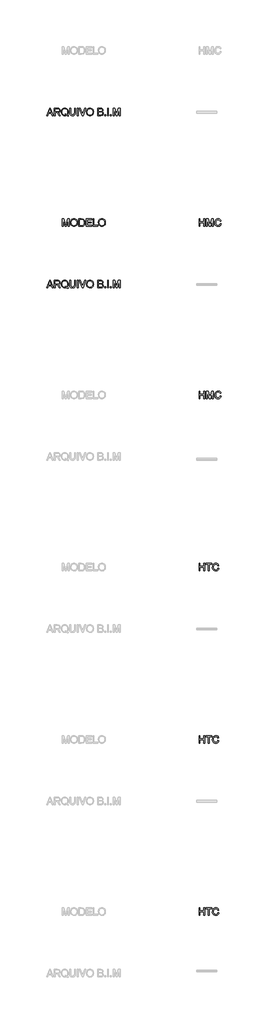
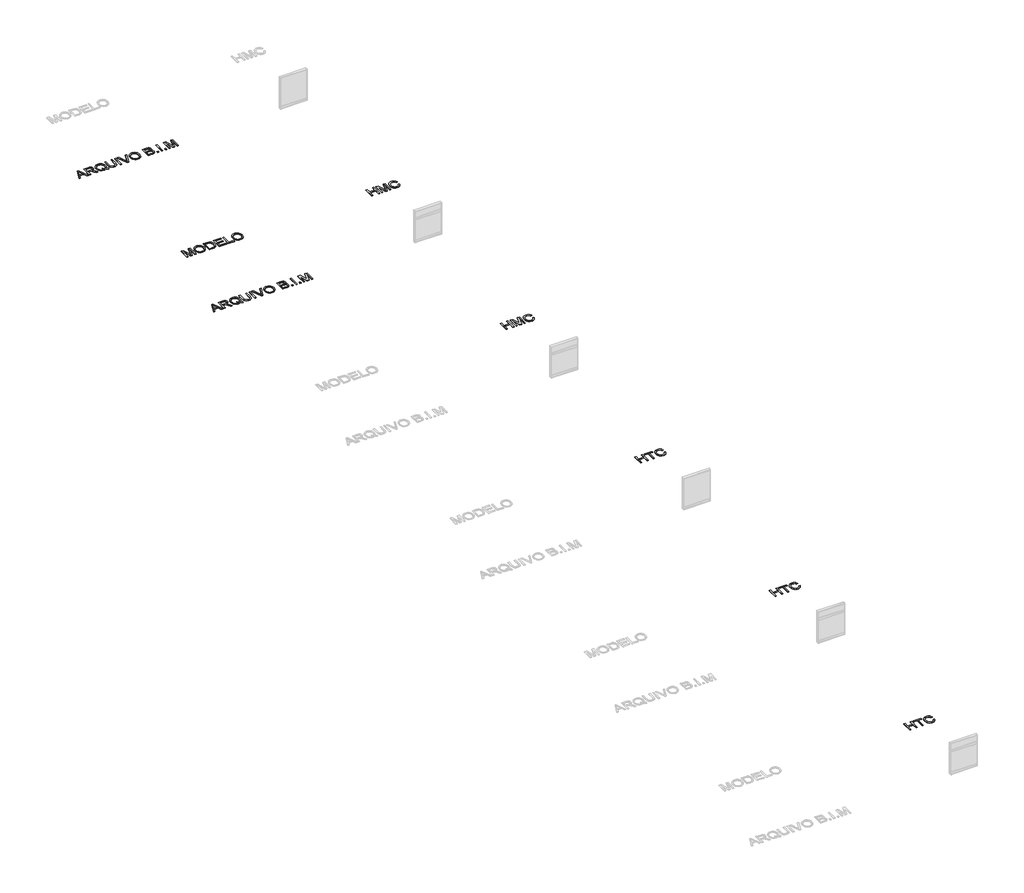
# One storey, part 7 of 8: 8 proxies.
"""IFC4 building model written with IfcOpenShell, lengths in millimetres."""

from ifc_helpers import new_model, si_unit, origin, origin_with_axes, place, context, project, spatial, polyline, outline, extrude, element, save

model = new_model("IFC4")

# Units and contexts
model_context = context("Model", 3, world=origin())
ifc_project = project(units=[si_unit("LENGTHUNIT", "METRE", prefix="MILLI")], contexts=[model_context])

# Site, building, storey
site = spatial("IfcSite", under=ifc_project)
building = spatial("IfcBuilding", under=site)
storey = spatial("IfcBuildingStorey", under=building, Name="Marelli - Linha HABITAT - Planta Baixa", Elevation=0.0)

# Proxies
placement = place(None, origin())
element("IfcBuildingElementProxy", 1, Name="300mm Arial", ObjectType="300mm Arial", at=placement, inside=storey, context=model_context, shape_type="SweptSolid", body=[
    extrude(outline(polyline([(35588.7720603, -14780.5663201), (35588.7720603, -14479.1973896), (35626.4431766, -14479.1973896), (35626.4431766, -14601.6285176), (35786.5454209, -14601.6285176), (35786.5454209, -14479.1973896), (35824.2165372, -14479.1973896), (35824.2165372, -14780.5663201), (35786.5454209, -14780.5663201), (35786.5454209, -14639.2996339), (35626.4431766, -14639.2996339), (35626.4431766, -14780.5663201), (35588.7720603, -14780.5663201)])), origin_with_axes(), (0.0, 0.0, 1.0), 10.0),
    extrude(outline(polyline([(35965.4832234, -14780.5663201), (35965.4832234, -14516.8685059), (35866.5965431, -14516.8685059), (35866.5965431, -14479.1973896), (36102.04102, -14479.1973896), (36102.04102, -14516.8685059), (36003.1543397, -14516.8685059), (36003.1543397, -14780.5663201), (35965.4832234, -14780.5663201)])), origin_with_axes(), (0.0, 0.0, 1.0), 10.0),
    extrude(outline(polyline([(36356.321055, -14673.4390831), (36393.9921713, -14683.1511677), (36386.5379624, -14706.5783531), (36376.6097471, -14727.0486868), (36364.2075253, -14744.5621691), (36349.3312971, -14759.1187997), (36332.3167549, -14770.5622291), (36313.4995908, -14778.7361071), (36292.879805, -14783.640434), (36270.4573974, -14785.2752096), (36226.7622134, -14780.3271968), (36192.0617442, -14765.4831583), (36165.4638759, -14741.2581289), (36146.0764948, -14708.1671434), (36134.2398916, -14669.2636224), (36130.2943572, -14627.6009865), (36134.7549264, -14583.6574821), (36148.136634, -14545.7104543), (36169.7405041, -14514.9647166), (36198.8675611, -14492.6250824), (36233.4116805, -14479.0226457), (36271.2667378, -14474.4885001), (36312.5706888, -14480.3562179), (36330.539425, -14487.6908652), (36346.719335, -14497.9593714), (36360.8437043, -14510.8904235), (36372.6458186, -14526.2127086), (36389.2832818, -14564.0309777), (36351.6121655, -14573.0072984), (36338.5523547, -14545.5357104), (36320.7100779, -14526.6909552), (36297.864606, -14515.7924511), (36269.7952098, -14512.1596164), (36237.4399883, -14516.1879242), (36210.8605141, -14528.2728478), (36190.6913838, -14547.1451941), (36177.5671936, -14571.5357704), (36170.3659035, -14599.1085259), (36167.9654735, -14627.5274101), (36170.8073619, -14662.3290468), (36179.3330272, -14692.421794), (36193.864366, -14716.6560205), (36214.7232751, -14733.8820949), (36239.7300537, -14744.1735937), (36266.705001, -14747.6040933), (36298.1497146, -14742.931992), (36324.3521097, -14728.9156879), (36344.134964, -14705.702334), (36356.321055, -14673.4390831)])), origin_with_axes(), (0.0, 0.0, 1.0), 10.0),
])
element("IfcBuildingElementProxy", 2, Name="300mm Arial", ObjectType="300mm Arial", at=placement, inside=storey, context=model_context, shape_type="SweptSolid", body=[
    extrude(outline(polyline([(35588.7720603, -7780.5663201), (35588.7720603, -7479.1973896), (35626.4431766, -7479.1973896), (35626.4431766, -7601.6285176), (35786.5454209, -7601.6285176), (35786.5454209, -7479.1973896), (35824.2165372, -7479.1973896), (35824.2165372, -7780.5663201), (35786.5454209, -7780.5663201), (35786.5454209, -7639.2996339), (35626.4431766, -7639.2996339), (35626.4431766, -7780.5663201), (35588.7720603, -7780.5663201)])), origin_with_axes(), (0.0, 0.0, 1.0), 10.0),
    extrude(outline(polyline([(35890.1409908, -7780.5663201), (35890.1409908, -7479.1973896), (35954.9617983, -7479.1973896), (36016.6188207, -7691.6124536), (36029.0532321, -7735.9790223), (36042.5177132, -7687.9336337), (36103.144666, -7479.1973896), (36167.9654735, -7479.1973896), (36167.9654735, -7780.5663201), (36130.2943572, -7780.5663201), (36130.2943572, -7516.8685059), (36054.5842426, -7780.5663201), (36003.5222217, -7780.5663201), (35927.8121071, -7516.8685059), (35927.8121071, -7780.5663201), (35890.1409908, -7780.5663201)])), origin_with_axes(), (0.0, 0.0, 1.0), 10.0),
    extrude(outline(polyline([(36445.7899563, -7673.4390831), (36483.4610726, -7683.1511677), (36476.0068636, -7706.5783531), (36466.0786483, -7727.0486868), (36453.6764265, -7744.5621691), (36438.8001984, -7759.1187997), (36421.7856561, -7770.5622291), (36402.968492, -7778.7361071), (36382.3487062, -7783.640434), (36359.9262986, -7785.2752096), (36316.2311146, -7780.3271968), (36281.5306454, -7765.4831583), (36254.9327772, -7741.2581289), (36235.545396, -7708.1671434), (36223.7087928, -7669.2636224), (36219.7632584, -7627.6009865), (36224.2238276, -7583.6574821), (36237.6055352, -7545.7104543), (36259.2094054, -7514.9647166), (36288.3364623, -7492.6250824), (36322.8805817, -7479.0226457), (36360.735639, -7474.4885001), (36402.03959, -7480.3562179), (36420.0083262, -7487.6908652), (36436.1882362, -7497.9593714), (36450.3126055, -7510.8904235), (36462.1147198, -7526.2127086), (36478.752183, -7564.0309777), (36441.0810667, -7573.0072984), (36428.0212559, -7545.5357104), (36410.1789791, -7526.6909552), (36387.3335072, -7515.7924511), (36359.264111, -7512.1596164), (36326.9088895, -7516.1879242), (36300.3294154, -7528.2728478), (36280.160285, -7547.1451941), (36267.0360948, -7571.5357704), (36259.8348048, -7599.1085259), (36257.4343747, -7627.5274101), (36260.2762631, -7662.3290468), (36268.8019284, -7692.421794), (36283.3332672, -7716.6560205), (36304.1921763, -7733.8820949), (36329.1989549, -7744.1735937), (36356.1739022, -7747.6040933), (36387.6186158, -7742.931992), (36413.8210109, -7728.9156879), (36433.6038652, -7705.702334), (36445.7899563, -7673.4390831)])), origin_with_axes(), (0.0, 0.0, 1.0), 10.0),
])
element("IfcBuildingElementProxy", 3, Name="300mm Arial", ObjectType="300mm Arial", at=placement, inside=storey, context=model_context, shape_type="SweptSolid", body=[
    extrude(outline(polyline([(29390.580402, -3280.5663201), (29510.8778144, -2979.1973896), (29542.9571244, -2979.1973896), (29663.2545368, -3280.5663201), (29623.449705, -3280.5663201), (29588.9423738, -3186.3885293), (29464.8189886, -3186.3885293), (29430.3852339, -3280.5663201), (29390.580402, -3280.5663201)]), holes=[polyline([(29478.6513517, -3148.717413), (29575.1835872, -3148.717413), (29548.0338959, -3074.6259792), (29526.9174694, -3016.8685059), (29508.1554877, -3068.1512561), (29478.6513517, -3148.717413)])]), origin_with_axes(), (0.0, 0.0, 1.0), 10.0),
    extrude(outline(polyline([(29703.5008271, -3280.5663201), (29703.5008271, -2979.1973896), (29833.3631714, -2979.1973896), (29868.2659757, -2981.2299376), (29893.6590304, -2987.3275817), (29912.2186771, -2998.5847708), (29926.6212572, -3016.0959537), (29935.8642923, -3037.8101885), (29938.945304, -3061.6765329), (29933.8409413, -3091.3646099), (29918.5278533, -3115.9759154), (29906.9280741, -3126.0052983), (29892.5461874, -3134.0205273), (29855.4360911, -3144.0085235), (29876.8468232, -3160.1217548), (29907.3810288, -3198.8965171), (29957.6337094, -3280.5663201), (29913.855752, -3280.5663201), (29874.6395313, -3218.0999573), (29846.3126176, -3176.750021), (29826.4102017, -3157.2154871), (29808.4943485, -3150.0417882), (29786.642158, -3148.717413), (29741.1719434, -3148.717413), (29741.1719434, -3280.5663201), (29703.5008271, -3280.5663201)]), holes=[polyline([(29741.1719434, -3111.0462967), (29825.4904967, -3111.0462967), (29849.706329, -3109.7127245), (29868.4959019, -3105.7120078), (29882.6409647, -3098.7774322), (29892.9232664, -3088.6422832), (29899.1864574, -3076.3826157), (29901.2741877, -3063.0744845), (29897.2918651, -3044.6987789), (29885.3448973, -3029.8915286), (29864.7894908, -3020.1242616), (29834.9818522, -3016.8685059), (29741.1719434, -3016.8685059), (29741.1719434, -3111.0462967)])]), origin_with_axes(), (0.0, 0.0, 1.0), 10.0),
    extrude(outline(polyline([(30231.2643374, -3244.4403081), (30255.5997314, -3263.036743), (30277.9853508, -3275.8574305), (30267.8318077, -3303.4485802), (30236.7641732, -3289.0460001), (30205.8069033, -3268.205485), (30170.9500843, -3281.0077785), (30132.5983863, -3285.2752096), (30094.0627473, -3280.3547879), (30059.2427164, -3265.5935229), (30030.0788713, -3241.9203165), (30008.5117893, -3210.2640708), (29995.185264, -3172.3630282), (29990.7430889, -3129.9554312), (29995.176067, -3087.511046), (30008.4750011, -3049.0581805), (30029.9593096, -3016.9512794), (30058.9484108, -2993.5447874), (30093.639683, -2979.2525719), (30132.2305043, -2974.4885001), (30171.1248282, -2979.3629365), (30205.9908443, -2993.9862458), (30234.9339603, -3017.3835407), (30256.0595839, -3048.5799339), (30268.9722419, -3085.9199564), (30273.2764612, -3127.7481393), (30270.6644991, -3162.5313819), (30262.8286126, -3193.5990164), (30249.7136194, -3220.9142546), (30231.2643374, -3244.4403081)]), holes=[polyline([(30142.9726585, -3194.3347804), (30174.6472983, -3206.3093393), (30200.215097, -3222.9559996), (30215.6983305, -3205.4816049), (30226.7577829, -3184.1076609), (30233.3934544, -3158.8341679), (30235.6053449, -3129.6611256), (30232.478348, -3096.5057608), (30223.0973571, -3067.8201623), (30207.6922985, -3044.3308969), (30186.4930986, -3026.7645316), (30160.934497, -3015.8108452), (30132.4512335, -3012.1596164), (30110.966925, -3014.0059242), (30091.3956028, -3019.5448474), (30073.7372671, -3028.7763863), (30057.9919177, -3041.7005406), (30045.0516685, -3058.2897193), (30035.8086334, -3078.5163313), (30030.2628123, -3102.3803764), (30028.4142053, -3129.8818548), (30030.2421189, -3156.6659634), (30035.7258599, -3180.1437324), (30044.8654282, -3200.3151621), (30057.6608239, -3217.1802523), (30073.2981079, -3230.4906827), (30090.9633415, -3239.9981331), (30110.6565245, -3245.7026032), (30132.3776571, -3247.6040933), (30153.2917485, -3245.6727128), (30172.918253, -3239.8785714), (30153.6228423, -3229.853787), (30133.2605739, -3223.1767288), (30142.9726585, -3194.3347804)])]), origin_with_axes(), (0.0, 0.0, 1.0), 10.0),
    extrude(outline(polyline([(30527.5564963, -2979.1973896), (30565.2276126, -2979.1973896), (30565.2276126, -3153.0584205), (30562.6708327, -3193.7737604), (30555.0004931, -3225.1265034), (30540.6714894, -3249.3147446), (30518.1387172, -3268.5365788), (30487.3469942, -3281.0905519), (30448.2411381, -3285.2752096), (30409.9906077, -3281.6331779), (30379.4104168, -3270.7070826), (30356.4913685, -3252.8740029), (30341.2242657, -3228.5110178), (30332.6434182, -3195.8338995), (30329.7831357, -3153.0584205), (30329.7831357, -2979.1973896), (30367.454252, -2979.1973896), (30367.454252, -3151.7340454), (30369.3120561, -3185.588386), (30374.8854683, -3209.1604248), (30384.9838291, -3225.4851883), (30400.4164788, -3237.597703), (30420.5396239, -3245.1024957), (30444.709471, -3247.6040933), (30483.0243808, -3242.6560805), (30497.3671801, -3236.4710644), (30508.500209, -3227.812042), (30516.8373347, -3215.6351479), (30522.7924245, -3198.8965171), (30527.5564963, -3151.7340454), (30527.5564963, -2979.1973896)])), origin_with_axes(), (0.0, 0.0, 1.0), 10.0),
    extrude(outline(polyline([(30635.8609557, -3280.5663201), (30635.8609557, -2979.1973896), (30673.532072, -2979.1973896), (30673.532072, -3280.5663201), (30635.8609557, -3280.5663201)])), origin_with_axes(), (0.0, 0.0, 1.0), 10.0),
    extrude(outline(polyline([(30837.9017474, -3280.5663201), (30717.972217, -2979.1973896), (30758.2920837, -2979.1973896), (30838.563935, -3196.3213432), (30854.8243192, -3245.2496485), (30870.8639742, -3196.3213432), (30951.3565547, -2979.1973896), (30991.6764214, -2979.1973896), (30876.8236625, -3280.5663201), (30837.9017474, -3280.5663201)])), origin_with_axes(), (0.0, 0.0, 1.0), 10.0),
    extrude(outline(polyline([(31012.5721187, -3133.8549804), (31015.0829134, -3098.5061192), (31022.6152972, -3067.213157), (31035.1692703, -3039.9760937), (31052.7448326, -3016.7949295), (31074.288922, -2998.2858666), (31098.7484761, -2985.0651074), (31126.1234951, -2977.1326519), (31156.4139789, -2974.4885001), (31195.9428992, -2979.454907), (31231.3883295, -2994.3541278), (31260.8188891, -3018.1376988), (31282.3031976, -3049.7571563), (31295.4365848, -3087.68579), (31299.8143806, -3130.3968896), (31295.2066586, -3173.6782064), (31281.3834926, -3212.140269), (31259.1082378, -3243.8149088), (31229.1442493, -3266.733957), (31194.0023217, -3280.6398965), (31156.1932497, -3285.2752096), (31116.057324, -3280.1524528), (31080.4095587, -3264.7841825), (31051.0525754, -3240.5591531), (31029.7889961, -3208.8661192), (31016.8763381, -3172.3998164), (31012.5721187, -3133.8549804)]), holes=[polyline([(31050.2432351, -3134.2228624), (31052.126331, -3159.1974513), (31057.7756189, -3181.3669401), (31067.1910987, -3200.7313286), (31080.3727705, -3217.2906169), (31096.3963306, -3230.5527628), (31114.3374757, -3240.0257242), (31134.1962056, -3245.709501), (31155.9725205, -3247.6040933), (31178.1213158, -3245.6911069), (31198.2145706, -3239.9521478), (31216.2522846, -3230.3872159), (31232.2344581, -3216.9963113), (31245.3195608, -3200.0875351), (31254.6660627, -3179.9689885), (31260.2739639, -3156.6406715), (31262.1432643, -3130.102584), (31258.9426909, -3096.7540812), (31249.3409708, -3067.9305269), (31233.5864244, -3044.358488), (31211.9273719, -3026.7645316), (31185.7985532, -3015.8108452), (31156.6347081, -3012.1596164), (31135.6148506, -3013.9185522), (31116.1125063, -3019.1953595), (31098.1276753, -3027.9900385), (31081.6603574, -3040.302589), (31067.9153664, -3056.7262208), (31058.0975157, -3077.8541437), (31052.2068052, -3103.6863575), (31050.2432351, -3134.2228624)])]), origin_with_axes(), (0.0, 0.0, 1.0), 10.0),
    extrude(outline(polyline([(31469.334404, -3280.5663201), (31469.334404, -2979.1973896), (31584.3343157, -2979.1973896), (31615.9629702, -2981.4138786), (31640.6570491, -2988.0633457), (31659.5845778, -2999.3113377), (31673.9135815, -3015.3234015), (31682.9358874, -3034.1589597), (31685.9433227, -3053.8774346), (31683.414134, -3072.0232141), (31675.8265679, -3089.0837416), (31663.125442, -3104.0105535), (31645.2555741, -3115.7551862), (31666.6019268, -3126.9020107), (31682.3748674, -3143.8613707), (31692.1145432, -3165.5112261), (31695.3611018, -3190.7295368), (31693.1446128, -3211.7447958), (31686.4951457, -3231.2333445), (31676.5715289, -3247.8064284), (31664.5325906, -3260.0752929), (31649.7897196, -3268.9596431), (31631.7543048, -3275.3791839), (31583.4513989, -3280.5663201), (31469.334404, -3280.5663201)]), holes=[polyline([(31507.0055203, -3101.6285176), (31575.7994534, -3101.6285176), (31615.9721672, -3098.3911561), (31630.0344565, -3092.8085468), (31640.1420143, -3084.4484284), (31646.2396584, -3073.4395597), (31648.2722064, -3059.9106994), (31646.3776141, -3046.7773121), (31640.6938373, -3035.3361821), (31631.4783933, -3026.4058467), (31618.9887996, -3020.8048433), (31570.575529, -3016.8685059), (31507.0055203, -3016.8685059), (31507.0055203, -3101.6285176)]), polyline([(31507.0055203, -3242.8952038), (31584.2607393, -3242.8952038), (31612.2197709, -3241.4236758), (31635.8745832, -3233.2199073), (31651.5463562, -3216.4812765), (31656.1540782, -3204.6538704), (31657.6899855, -3191.0974188), (31655.8873637, -3175.3520694), (31650.4794984, -3161.814012), (31641.0341282, -3151.2282076), (31627.1189917, -3144.3396173), (31607.4097138, -3140.5596298), (31580.5819193, -3139.2996339), (31507.0055203, -3139.2996339), (31507.0055203, -3242.8952038)])]), origin_with_axes(), (0.0, 0.0, 1.0), 10.0),
    extrude(outline(polyline([(31751.8677763, -3280.5663201), (31751.8677763, -3242.8952038), (31789.5388926, -3242.8952038), (31789.5388926, -3280.5663201), (31751.8677763, -3280.5663201)])), origin_with_axes(), (0.0, 0.0, 1.0), 10.0),
    extrude(outline(polyline([(31869.5900147, -3280.5663201), (31869.5900147, -2979.1973896), (31907.261131, -2979.1973896), (31907.261131, -3280.5663201), (31869.5900147, -3280.5663201)])), origin_with_axes(), (0.0, 0.0, 1.0), 10.0),
    extrude(outline(polyline([(31987.3122532, -3280.5663201), (31987.3122532, -3242.8952038), (32024.9833695, -3242.8952038), (32024.9833695, -3280.5663201), (31987.3122532, -3280.5663201)])), origin_with_axes(), (0.0, 0.0, 1.0), 10.0),
    extrude(outline(polyline([(32100.3256021, -3280.5663201), (32100.3256021, -2979.1973896), (32165.1464096, -2979.1973896), (32226.803432, -3191.6124536), (32239.2378435, -3235.9790223), (32252.7023245, -3187.9336337), (32313.3292773, -2979.1973896), (32378.1500848, -2979.1973896), (32378.1500848, -3280.5663201), (32340.4789685, -3280.5663201), (32340.4789685, -3016.8685059), (32264.7688539, -3280.5663201), (32213.706833, -3280.5663201), (32137.9967184, -3016.8685059), (32137.9967184, -3280.5663201), (32100.3256021, -3280.5663201)])), origin_with_axes(), (0.0, 0.0, 1.0), 10.0),
])
element("IfcBuildingElementProxy", 4, Name="300mm Arial", ObjectType="300mm Arial", at=placement, inside=storey, context=model_context, shape_type="SweptSolid", body=[
    extrude(outline(polyline([(35588.7720603, -780.5663201), (35588.7720603, -479.1973896), (35626.4431766, -479.1973896), (35626.4431766, -601.6285176), (35786.5454209, -601.6285176), (35786.5454209, -479.1973896), (35824.2165372, -479.1973896), (35824.2165372, -780.5663201), (35786.5454209, -780.5663201), (35786.5454209, -639.2996339), (35626.4431766, -639.2996339), (35626.4431766, -780.5663201), (35588.7720603, -780.5663201)])), origin_with_axes(), (0.0, 0.0, 1.0), 10.0),
    extrude(outline(polyline([(35890.1409908, -780.5663201), (35890.1409908, -479.1973896), (35954.9617983, -479.1973896), (36016.6188207, -691.6124536), (36029.0532321, -735.9790223), (36042.5177132, -687.9336337), (36103.144666, -479.1973896), (36167.9654735, -479.1973896), (36167.9654735, -780.5663201), (36130.2943572, -780.5663201), (36130.2943572, -516.8685059), (36054.5842426, -780.5663201), (36003.5222217, -780.5663201), (35927.8121071, -516.8685059), (35927.8121071, -780.5663201), (35890.1409908, -780.5663201)])), origin_with_axes(), (0.0, 0.0, 1.0), 10.0),
    extrude(outline(polyline([(36445.7899563, -673.4390831), (36483.4610726, -683.1511677), (36476.0068636, -706.5783531), (36466.0786483, -727.0486868), (36453.6764265, -744.5621691), (36438.8001984, -759.1187997), (36421.7856561, -770.5622291), (36402.968492, -778.7361071), (36382.3487062, -783.640434), (36359.9262986, -785.2752096), (36316.2311146, -780.3271968), (36281.5306454, -765.4831583), (36254.9327772, -741.2581289), (36235.545396, -708.1671434), (36223.7087928, -669.2636224), (36219.7632584, -627.6009865), (36224.2238276, -583.6574821), (36237.6055352, -545.7104543), (36259.2094054, -514.9647166), (36288.3364623, -492.6250824), (36322.8805817, -479.0226457), (36360.735639, -474.4885001), (36402.03959, -480.3562179), (36420.0083262, -487.6908652), (36436.1882362, -497.9593714), (36450.3126055, -510.8904235), (36462.1147198, -526.2127086), (36478.752183, -564.0309777), (36441.0810667, -573.0072984), (36428.0212559, -545.5357104), (36410.1789791, -526.6909552), (36387.3335072, -515.7924511), (36359.264111, -512.1596164), (36326.9088895, -516.1879242), (36300.3294154, -528.2728478), (36280.160285, -547.1451941), (36267.0360948, -571.5357704), (36259.8348048, -599.1085259), (36257.4343747, -627.5274101), (36260.2762631, -662.3290468), (36268.8019284, -692.421794), (36283.3332672, -716.6560205), (36304.1921763, -733.8820949), (36329.1989549, -744.1735937), (36356.1739022, -747.6040933), (36387.6186158, -742.931992), (36413.8210109, -728.9156879), (36433.6038652, -705.702334), (36445.7899563, -673.4390831)])), origin_with_axes(), (0.0, 0.0, 1.0), 10.0),
])
element("IfcBuildingElementProxy", 5, Name="300mm Arial", ObjectType="300mm Arial", at=placement, inside=storey, context=model_context, shape_type="SweptSolid", body=[
    extrude(outline(polyline([(30033.1230948, -780.5663201), (30033.1230948, -479.1973896), (30097.9439023, -479.1973896), (30159.6009247, -691.6124536), (30172.0353362, -735.9790223), (30185.4998172, -687.9336337), (30246.12677, -479.1973896), (30310.9475775, -479.1973896), (30310.9475775, -780.5663201), (30273.2764612, -780.5663201), (30273.2764612, -516.8685059), (30197.5663466, -780.5663201), (30146.5043257, -780.5663201), (30070.7942111, -516.8685059), (30070.7942111, -780.5663201), (30033.1230948, -780.5663201)])), origin_with_axes(), (0.0, 0.0, 1.0), 10.0),
    extrude(outline(polyline([(30362.7453625, -633.8549804), (30365.2561571, -598.5061192), (30372.7885409, -567.213157), (30385.342514, -539.9760937), (30402.9180763, -516.7949295), (30424.4621657, -498.2858666), (30448.9217198, -485.0651074), (30476.2967388, -477.1326519), (30506.5872226, -474.4885001), (30546.116143, -479.454907), (30581.5615732, -494.3541278), (30610.9921328, -518.1376988), (30632.4764413, -549.7571563), (30645.6098286, -587.68579), (30649.9876243, -630.3968896), (30645.3799023, -673.6782064), (30631.5567363, -712.140269), (30609.2814815, -743.8149088), (30579.317493, -766.733957), (30544.1755654, -780.6398965), (30506.3664934, -785.2752096), (30466.2305677, -780.1524528), (30430.5828024, -764.7841825), (30401.2258192, -740.5591531), (30379.9622398, -708.8661192), (30367.0495818, -672.3998164), (30362.7453625, -633.8549804)]), holes=[polyline([(30400.4164788, -634.2228624), (30402.2995747, -659.1974513), (30407.9488626, -681.3669401), (30417.3643424, -700.7313286), (30430.5460142, -717.2906169), (30446.5695743, -730.5527628), (30464.5107194, -740.0257242), (30484.3694493, -745.709501), (30506.1457642, -747.6040933), (30528.2945596, -745.6911069), (30548.3878143, -739.9521478), (30566.4255284, -730.3872159), (30582.4077018, -716.9963113), (30595.4928045, -700.0875351), (30604.8393064, -679.9689885), (30610.4472076, -656.6406715), (30612.316508, -630.102584), (30609.1159346, -596.7540812), (30599.5142146, -567.9305269), (30583.7596681, -544.358488), (30562.1006157, -526.7645316), (30535.9717969, -515.8108452), (30506.8079518, -512.1596164), (30485.7880943, -513.9185522), (30466.28575, -519.1953595), (30448.300919, -527.9900385), (30431.8336012, -540.302589), (30418.0886101, -556.7262208), (30408.2707594, -577.8541437), (30402.3800489, -603.6863575), (30400.4164788, -634.2228624)])]), origin_with_axes(), (0.0, 0.0, 1.0), 10.0),
    extrude(outline(polyline([(30701.7854092, -780.5663201), (30701.7854092, -479.1973896), (30805.7488611, -479.1973896), (30859.5332088, -483.5383972), (30883.555903, -491.9077126), (30903.826201, -505.0962821), (30924.666716, -528.0521186), (30939.5107545, -556.5997614), (30948.3951047, -590.1873876), (30951.3565547, -628.2631741), (30949.3515979, -660.6091985), (30943.3367273, -689.0740679), (30934.1764656, -713.3082943), (30922.7353355, -732.9623899), (30909.5651601, -748.477813), (30895.2177623, -760.2960221), (30878.745846, -769.0608107), (30859.202115, -775.4159721), (30810.7520562, -780.5663201), (30701.7854092, -780.5663201)]), holes=[polyline([(30739.4565255, -742.8952038), (30806.1167431, -742.8952038), (30833.6894986, -741.5340404), (30854.60359, -737.4505502), (30870.3857276, -730.8838566), (30882.5626217, -722.0730828), (30895.6500236, -705.7667134), (30905.48167, -684.6594839), (30911.6344963, -658.6594239), (30913.6854384, -627.6745629), (30909.6663276, -586.6189322), (30897.6089953, -556.3054558), (30879.7943096, -535.4833349), (30858.5031392, -522.9017706), (30836.8348897, -518.3768221), (30805.0866735, -516.8685059), (30739.4565255, -516.8685059), (30739.4565255, -742.8952038)])]), origin_with_axes(), (0.0, 0.0, 1.0), 10.0),
    extrude(outline(polyline([(31003.1543397, -780.5663201), (31003.1543397, -479.1973896), (31219.7632584, -479.1973896), (31219.7632584, -516.8685059), (31040.825456, -516.8685059), (31040.825456, -606.3374072), (31210.3454794, -606.3374072), (31210.3454794, -644.0085235), (31040.825456, -644.0085235), (31040.825456, -742.8952038), (31224.472148, -742.8952038), (31224.472148, -780.5663201), (31003.1543397, -780.5663201)])), origin_with_axes(), (0.0, 0.0, 1.0), 10.0),
    extrude(outline(polyline([(31280.9788224, -780.5663201), (31280.9788224, -479.1973896), (31318.6499387, -479.1973896), (31318.6499387, -742.8952038), (31469.334404, -742.8952038), (31469.334404, -780.5663201), (31280.9788224, -780.5663201)])), origin_with_axes(), (0.0, 0.0, 1.0), 10.0),
    extrude(outline(polyline([(31497.5877412, -633.8549804), (31500.0985358, -598.5061192), (31507.6309197, -567.213157), (31520.1848927, -539.9760937), (31537.7604551, -516.7949295), (31559.3045444, -498.2858666), (31583.7640986, -485.0651074), (31611.1391175, -477.1326519), (31641.4296013, -474.4885001), (31680.9585217, -479.454907), (31716.4039519, -494.3541278), (31745.8345115, -518.1376988), (31767.3188201, -549.7571563), (31780.4522073, -587.68579), (31784.830003, -630.3968896), (31780.222281, -673.6782064), (31766.3991151, -712.140269), (31744.1238603, -743.8149088), (31714.1598717, -766.733957), (31679.0179442, -780.6398965), (31641.2088721, -785.2752096), (31601.0729464, -780.1524528), (31565.4251811, -764.7841825), (31536.0681979, -740.5591531), (31514.8046186, -708.8661192), (31501.8919605, -672.3998164), (31497.5877412, -633.8549804)]), holes=[polyline([(31535.2588575, -634.2228624), (31537.1419535, -659.1974513), (31542.7912413, -681.3669401), (31552.2067212, -700.7313286), (31565.3883929, -717.2906169), (31581.4119531, -730.5527628), (31599.3530981, -740.0257242), (31619.2118281, -745.709501), (31640.9881429, -747.6040933), (31663.1369383, -745.6911069), (31683.230193, -739.9521478), (31701.2679071, -730.3872159), (31717.2500805, -716.9963113), (31730.3351832, -700.0875351), (31739.6816852, -679.9689885), (31745.2895863, -656.6406715), (31747.1588867, -630.102584), (31743.9583134, -596.7540812), (31734.3565933, -567.9305269), (31718.6020468, -544.358488), (31696.9429944, -526.7645316), (31670.8141757, -515.8108452), (31641.6503305, -512.1596164), (31620.630473, -513.9185522), (31601.1281287, -519.1953595), (31583.1432977, -527.9900385), (31566.6759799, -540.302589), (31552.9309888, -556.7262208), (31543.1131381, -577.8541437), (31537.2224276, -603.6863575), (31535.2588575, -634.2228624)])]), origin_with_axes(), (0.0, 0.0, 1.0), 10.0),
])
element("IfcBuildingElementProxy", 6, Name="300mm Arial", ObjectType="300mm Arial", at=placement, inside=storey, context=model_context, shape_type="SweptSolid", body=[
    extrude(outline(polyline([(29390.580402, 3719.4336799), (29510.8778144, 4020.8026104), (29542.9571244, 4020.8026104), (29663.2545368, 3719.4336799), (29623.449705, 3719.4336799), (29588.9423738, 3813.6114707), (29464.8189886, 3813.6114707), (29430.3852339, 3719.4336799), (29390.580402, 3719.4336799)]), holes=[polyline([(29478.6513517, 3851.282587), (29575.1835872, 3851.282587), (29548.0338959, 3925.3740208), (29526.9174694, 3983.1314941), (29508.1554877, 3931.8487439), (29478.6513517, 3851.282587)])]), origin_with_axes(), (0.0, 0.0, 1.0), 10.0),
    extrude(outline(polyline([(29703.5008271, 3719.4336799), (29703.5008271, 4020.8026104), (29833.3631714, 4020.8026104), (29868.2659757, 4018.7700624), (29893.6590304, 4012.6724183), (29912.2186771, 4001.4152292), (29926.6212572, 3983.9040463), (29935.8642923, 3962.1898115), (29938.945304, 3938.3234671), (29933.8409413, 3908.6353901), (29918.5278533, 3884.0240846), (29906.9280741, 3873.9947017), (29892.5461874, 3865.9794727), (29855.4360911, 3855.9914765), (29876.8468232, 3839.8782452), (29907.3810288, 3801.1034829), (29957.6337094, 3719.4336799), (29913.855752, 3719.4336799), (29874.6395313, 3781.9000427), (29846.3126176, 3823.249979), (29826.4102017, 3842.7845129), (29808.4943485, 3849.9582118), (29786.642158, 3851.282587), (29741.1719434, 3851.282587), (29741.1719434, 3719.4336799), (29703.5008271, 3719.4336799)]), holes=[polyline([(29741.1719434, 3888.9537033), (29825.4904967, 3888.9537033), (29849.706329, 3890.2872755), (29868.4959019, 3894.2879922), (29882.6409647, 3901.2225678), (29892.9232664, 3911.3577168), (29899.1864574, 3923.6173843), (29901.2741877, 3936.9255155), (29897.2918651, 3955.3012211), (29885.3448973, 3970.1084714), (29864.7894908, 3979.8757384), (29834.9818522, 3983.1314941), (29741.1719434, 3983.1314941), (29741.1719434, 3888.9537033)])]), origin_with_axes(), (0.0, 0.0, 1.0), 10.0),
    extrude(outline(polyline([(30231.2643374, 3755.5596919), (30255.5997314, 3736.963257), (30277.9853508, 3724.1425695), (30267.8318077, 3696.5514198), (30236.7641732, 3710.9539999), (30205.8069033, 3731.794515), (30170.9500843, 3718.9922215), (30132.5983863, 3714.7247904), (30094.0627473, 3719.6452121), (30059.2427164, 3734.4064771), (30030.0788713, 3758.0796835), (30008.5117893, 3789.7359292), (29995.185264, 3827.6369718), (29990.7430889, 3870.0445688), (29995.176067, 3912.488954), (30008.4750011, 3950.9418195), (30029.9593096, 3983.0487206), (30058.9484108, 4006.4552126), (30093.639683, 4020.7474281), (30132.2305043, 4025.5114999), (30171.1248282, 4020.6370635), (30205.9908443, 4006.0137542), (30234.9339603, 3982.6164593), (30256.0595839, 3951.4200661), (30268.9722419, 3914.0800436), (30273.2764612, 3872.2518607), (30270.6644991, 3837.4686181), (30262.8286126, 3806.4009836), (30249.7136194, 3779.0857454), (30231.2643374, 3755.5596919)]), holes=[polyline([(30142.9726585, 3805.6652196), (30174.6472983, 3793.6906607), (30200.215097, 3777.0440004), (30215.6983305, 3794.5183951), (30226.7577829, 3815.8923391), (30233.3934544, 3841.1658321), (30235.6053449, 3870.3388744), (30232.478348, 3903.4942392), (30223.0973571, 3932.1798377), (30207.6922985, 3955.6691031), (30186.4930986, 3973.2354684), (30160.934497, 3984.1891548), (30132.4512335, 3987.8403836), (30110.966925, 3985.9940758), (30091.3956028, 3980.4551526), (30073.7372671, 3971.2236137), (30057.9919177, 3958.2994594), (30045.0516685, 3941.7102807), (30035.8086334, 3921.4836687), (30030.2628123, 3897.6196236), (30028.4142053, 3870.1181452), (30030.2421189, 3843.3340366), (30035.7258599, 3819.8562676), (30044.8654282, 3799.6848379), (30057.6608239, 3782.8197477), (30073.2981079, 3769.5093173), (30090.9633415, 3760.0018669), (30110.6565245, 3754.2973968), (30132.3776571, 3752.3959067), (30153.2917485, 3754.3272872), (30172.918253, 3760.1214286), (30153.6228423, 3770.146213), (30133.2605739, 3776.8232712), (30142.9726585, 3805.6652196)])]), origin_with_axes(), (0.0, 0.0, 1.0), 10.0),
    extrude(outline(polyline([(30527.5564963, 4020.8026104), (30565.2276126, 4020.8026104), (30565.2276126, 3846.9415795), (30562.6708327, 3806.2262396), (30555.0004931, 3774.8734966), (30540.6714894, 3750.6852554), (30518.1387172, 3731.4634212), (30487.3469942, 3718.9094481), (30448.2411381, 3714.7247904), (30409.9906077, 3718.3668221), (30379.4104168, 3729.2929174), (30356.4913685, 3747.1259971), (30341.2242657, 3771.4889822), (30332.6434182, 3804.1661005), (30329.7831357, 3846.9415795), (30329.7831357, 4020.8026104), (30367.454252, 4020.8026104), (30367.454252, 3848.2659546), (30369.3120561, 3814.411614), (30374.8854683, 3790.8395752), (30384.9838291, 3774.5148117), (30400.4164788, 3762.402297), (30420.5396239, 3754.8975043), (30444.709471, 3752.3959067), (30483.0243808, 3757.3439195), (30497.3671801, 3763.5289356), (30508.500209, 3772.187958), (30516.8373347, 3784.3648521), (30522.7924245, 3801.1034829), (30527.5564963, 3848.2659546), (30527.5564963, 4020.8026104)])), origin_with_axes(), (0.0, 0.0, 1.0), 10.0),
    extrude(outline(polyline([(30635.8609557, 3719.4336799), (30635.8609557, 4020.8026104), (30673.532072, 4020.8026104), (30673.532072, 3719.4336799), (30635.8609557, 3719.4336799)])), origin_with_axes(), (0.0, 0.0, 1.0), 10.0),
    extrude(outline(polyline([(30837.9017474, 3719.4336799), (30717.972217, 4020.8026104), (30758.2920837, 4020.8026104), (30838.563935, 3803.6786568), (30854.8243192, 3754.7503515), (30870.8639742, 3803.6786568), (30951.3565547, 4020.8026104), (30991.6764214, 4020.8026104), (30876.8236625, 3719.4336799), (30837.9017474, 3719.4336799)])), origin_with_axes(), (0.0, 0.0, 1.0), 10.0),
    extrude(outline(polyline([(31012.5721187, 3866.1450196), (31015.0829134, 3901.4938808), (31022.6152972, 3932.786843), (31035.1692703, 3960.0239063), (31052.7448326, 3983.2050705), (31074.288922, 4001.7141334), (31098.7484761, 4014.9348926), (31126.1234951, 4022.8673481), (31156.4139789, 4025.5114999), (31195.9428992, 4020.545093), (31231.3883295, 4005.6458722), (31260.8188891, 3981.8623012), (31282.3031976, 3950.2428437), (31295.4365848, 3912.31421), (31299.8143806, 3869.6031104), (31295.2066586, 3826.3217936), (31281.3834926, 3787.859731), (31259.1082378, 3756.1850912), (31229.1442493, 3733.266043), (31194.0023217, 3719.3601035), (31156.1932497, 3714.7247904), (31116.057324, 3719.8475472), (31080.4095587, 3735.2158175), (31051.0525754, 3759.4408469), (31029.7889961, 3791.1338808), (31016.8763381, 3827.6001836), (31012.5721187, 3866.1450196)]), holes=[polyline([(31050.2432351, 3865.7771376), (31052.126331, 3840.8025487), (31057.7756189, 3818.6330599), (31067.1910987, 3799.2686714), (31080.3727705, 3782.7093831), (31096.3963306, 3769.4472372), (31114.3374757, 3759.9742758), (31134.1962056, 3754.290499), (31155.9725205, 3752.3959067), (31178.1213158, 3754.3088931), (31198.2145706, 3760.0478522), (31216.2522846, 3769.6127841), (31232.2344581, 3783.0036887), (31245.3195608, 3799.9124649), (31254.6660627, 3820.0310115), (31260.2739639, 3843.3593285), (31262.1432643, 3869.897416), (31258.9426909, 3903.2459188), (31249.3409708, 3932.0694731), (31233.5864244, 3955.641512), (31211.9273719, 3973.2354684), (31185.7985532, 3984.1891548), (31156.6347081, 3987.8403836), (31135.6148506, 3986.0814478), (31116.1125063, 3980.8046405), (31098.1276753, 3972.0099615), (31081.6603574, 3959.697411), (31067.9153664, 3943.2737792), (31058.0975157, 3922.1458563), (31052.2068052, 3896.3136425), (31050.2432351, 3865.7771376)])]), origin_with_axes(), (0.0, 0.0, 1.0), 10.0),
    extrude(outline(polyline([(31469.334404, 3719.4336799), (31469.334404, 4020.8026104), (31584.3343157, 4020.8026104), (31615.9629702, 4018.5861214), (31640.6570491, 4011.9366543), (31659.5845778, 4000.6886623), (31673.9135815, 3984.6765985), (31682.9358874, 3965.8410403), (31685.9433227, 3946.1225654), (31683.414134, 3927.9767859), (31675.8265679, 3910.9162584), (31663.125442, 3895.9894465), (31645.2555741, 3884.2448138), (31666.6019268, 3873.0979893), (31682.3748674, 3856.1386293), (31692.1145432, 3834.4887739), (31695.3611018, 3809.2704632), (31693.1446128, 3788.2552042), (31686.4951457, 3768.7666555), (31676.5715289, 3752.1935716), (31664.5325906, 3739.9247071), (31649.7897196, 3731.0403569), (31631.7543048, 3724.6208161), (31583.4513989, 3719.4336799), (31469.334404, 3719.4336799)]), holes=[polyline([(31507.0055203, 3898.3714824), (31575.7994534, 3898.3714824), (31615.9721672, 3901.6088439), (31630.0344565, 3907.1914532), (31640.1420143, 3915.5515716), (31646.2396584, 3926.5604403), (31648.2722064, 3940.0893006), (31646.3776141, 3953.2226879), (31640.6938373, 3964.6638179), (31631.4783933, 3973.5941533), (31618.9887996, 3979.1951567), (31570.575529, 3983.1314941), (31507.0055203, 3983.1314941), (31507.0055203, 3898.3714824)]), polyline([(31507.0055203, 3757.1047962), (31584.2607393, 3757.1047962), (31612.2197709, 3758.5763242), (31635.8745832, 3766.7800927), (31651.5463562, 3783.5187235), (31656.1540782, 3795.3461296), (31657.6899855, 3808.9025812), (31655.8873637, 3824.6479306), (31650.4794984, 3838.185988), (31641.0341282, 3848.7717924), (31627.1189917, 3855.6603827), (31607.4097138, 3859.4403702), (31580.5819193, 3860.7003661), (31507.0055203, 3860.7003661), (31507.0055203, 3757.1047962)])]), origin_with_axes(), (0.0, 0.0, 1.0), 10.0),
    extrude(outline(polyline([(31751.8677763, 3719.4336799), (31751.8677763, 3757.1047962), (31789.5388926, 3757.1047962), (31789.5388926, 3719.4336799), (31751.8677763, 3719.4336799)])), origin_with_axes(), (0.0, 0.0, 1.0), 10.0),
    extrude(outline(polyline([(31869.5900147, 3719.4336799), (31869.5900147, 4020.8026104), (31907.261131, 4020.8026104), (31907.261131, 3719.4336799), (31869.5900147, 3719.4336799)])), origin_with_axes(), (0.0, 0.0, 1.0), 10.0),
    extrude(outline(polyline([(31987.3122532, 3719.4336799), (31987.3122532, 3757.1047962), (32024.9833695, 3757.1047962), (32024.9833695, 3719.4336799), (31987.3122532, 3719.4336799)])), origin_with_axes(), (0.0, 0.0, 1.0), 10.0),
    extrude(outline(polyline([(32100.3256021, 3719.4336799), (32100.3256021, 4020.8026104), (32165.1464096, 4020.8026104), (32226.803432, 3808.3875464), (32239.2378435, 3764.0209777), (32252.7023245, 3812.0663663), (32313.3292773, 4020.8026104), (32378.1500848, 4020.8026104), (32378.1500848, 3719.4336799), (32340.4789685, 3719.4336799), (32340.4789685, 3983.1314941), (32264.7688539, 3719.4336799), (32213.706833, 3719.4336799), (32137.9967184, 3983.1314941), (32137.9967184, 3719.4336799), (32100.3256021, 3719.4336799)])), origin_with_axes(), (0.0, 0.0, 1.0), 10.0),
])
element("IfcBuildingElementProxy", 7, Name="300mm Arial", ObjectType="300mm Arial", at=placement, inside=storey, context=model_context, shape_type="SweptSolid", body=[
    extrude(outline(polyline([(35588.7720603, -21780.5663201), (35588.7720603, -21479.1973896), (35626.4431766, -21479.1973896), (35626.4431766, -21601.6285176), (35786.5454209, -21601.6285176), (35786.5454209, -21479.1973896), (35824.2165372, -21479.1973896), (35824.2165372, -21780.5663201), (35786.5454209, -21780.5663201), (35786.5454209, -21639.2996339), (35626.4431766, -21639.2996339), (35626.4431766, -21780.5663201), (35588.7720603, -21780.5663201)])), origin_with_axes(), (0.0, 0.0, 1.0), 10.0),
    extrude(outline(polyline([(35965.4832234, -21780.5663201), (35965.4832234, -21516.8685059), (35866.5965431, -21516.8685059), (35866.5965431, -21479.1973896), (36102.04102, -21479.1973896), (36102.04102, -21516.8685059), (36003.1543397, -21516.8685059), (36003.1543397, -21780.5663201), (35965.4832234, -21780.5663201)])), origin_with_axes(), (0.0, 0.0, 1.0), 10.0),
    extrude(outline(polyline([(36356.321055, -21673.4390831), (36393.9921713, -21683.1511677), (36386.5379624, -21706.5783531), (36376.6097471, -21727.0486868), (36364.2075253, -21744.5621691), (36349.3312971, -21759.1187997), (36332.3167549, -21770.5622291), (36313.4995908, -21778.7361071), (36292.879805, -21783.640434), (36270.4573974, -21785.2752096), (36226.7622134, -21780.3271968), (36192.0617442, -21765.4831583), (36165.4638759, -21741.2581289), (36146.0764948, -21708.1671434), (36134.2398916, -21669.2636224), (36130.2943572, -21627.6009865), (36134.7549264, -21583.6574821), (36148.136634, -21545.7104543), (36169.7405041, -21514.9647166), (36198.8675611, -21492.6250824), (36233.4116805, -21479.0226457), (36271.2667378, -21474.4885001), (36312.5706888, -21480.3562179), (36330.539425, -21487.6908652), (36346.719335, -21497.9593714), (36360.8437043, -21510.8904235), (36372.6458186, -21526.2127086), (36389.2832818, -21564.0309777), (36351.6121655, -21573.0072984), (36338.5523547, -21545.5357104), (36320.7100779, -21526.6909552), (36297.864606, -21515.7924511), (36269.7952098, -21512.1596164), (36237.4399883, -21516.1879242), (36210.8605141, -21528.2728478), (36190.6913838, -21547.1451941), (36177.5671936, -21571.5357704), (36170.3659035, -21599.1085259), (36167.9654735, -21627.5274101), (36170.8073619, -21662.3290468), (36179.3330272, -21692.421794), (36193.864366, -21716.6560205), (36214.7232751, -21733.8820949), (36239.7300537, -21744.1735937), (36266.705001, -21747.6040933), (36298.1497146, -21742.931992), (36324.3521097, -21728.9156879), (36344.134964, -21705.702334), (36356.321055, -21673.4390831)])), origin_with_axes(), (0.0, 0.0, 1.0), 10.0),
])
element("IfcBuildingElementProxy", 8, Name="300mm Arial", ObjectType="300mm Arial", at=placement, inside=storey, context=model_context, shape_type="SweptSolid", body=[
    extrude(outline(polyline([(35588.7720603, -28780.5663201), (35588.7720603, -28479.1973896), (35626.4431766, -28479.1973896), (35626.4431766, -28601.6285176), (35786.5454209, -28601.6285176), (35786.5454209, -28479.1973896), (35824.2165372, -28479.1973896), (35824.2165372, -28780.5663201), (35786.5454209, -28780.5663201), (35786.5454209, -28639.2996339), (35626.4431766, -28639.2996339), (35626.4431766, -28780.5663201), (35588.7720603, -28780.5663201)])), origin_with_axes(), (0.0, 0.0, 1.0), 10.0),
    extrude(outline(polyline([(35965.4832234, -28780.5663201), (35965.4832234, -28516.8685059), (35866.5965431, -28516.8685059), (35866.5965431, -28479.1973896), (36102.04102, -28479.1973896), (36102.04102, -28516.8685059), (36003.1543397, -28516.8685059), (36003.1543397, -28780.5663201), (35965.4832234, -28780.5663201)])), origin_with_axes(), (0.0, 0.0, 1.0), 10.0),
    extrude(outline(polyline([(36356.321055, -28673.4390831), (36393.9921713, -28683.1511677), (36386.5379624, -28706.5783531), (36376.6097471, -28727.0486868), (36364.2075253, -28744.5621691), (36349.3312971, -28759.1187997), (36332.3167549, -28770.5622291), (36313.4995908, -28778.7361071), (36292.879805, -28783.640434), (36270.4573974, -28785.2752096), (36226.7622134, -28780.3271968), (36192.0617442, -28765.4831583), (36165.4638759, -28741.2581289), (36146.0764948, -28708.1671434), (36134.2398916, -28669.2636224), (36130.2943572, -28627.6009865), (36134.7549264, -28583.6574821), (36148.136634, -28545.7104543), (36169.7405041, -28514.9647166), (36198.8675611, -28492.6250824), (36233.4116805, -28479.0226457), (36271.2667378, -28474.4885001), (36312.5706888, -28480.3562179), (36330.539425, -28487.6908652), (36346.719335, -28497.9593714), (36360.8437043, -28510.8904235), (36372.6458186, -28526.2127086), (36389.2832818, -28564.0309777), (36351.6121655, -28573.0072984), (36338.5523547, -28545.5357104), (36320.7100779, -28526.6909552), (36297.864606, -28515.7924511), (36269.7952098, -28512.1596164), (36237.4399883, -28516.1879242), (36210.8605141, -28528.2728478), (36190.6913838, -28547.1451941), (36177.5671936, -28571.5357704), (36170.3659035, -28599.1085259), (36167.9654735, -28627.5274101), (36170.8073619, -28662.3290468), (36179.3330272, -28692.421794), (36193.864366, -28716.6560205), (36214.7232751, -28733.8820949), (36239.7300537, -28744.1735937), (36266.705001, -28747.6040933), (36298.1497146, -28742.931992), (36324.3521097, -28728.9156879), (36344.134964, -28705.702334), (36356.321055, -28673.4390831)])), origin_with_axes(), (0.0, 0.0, 1.0), 10.0),
])

save(model, "model.ifc")
